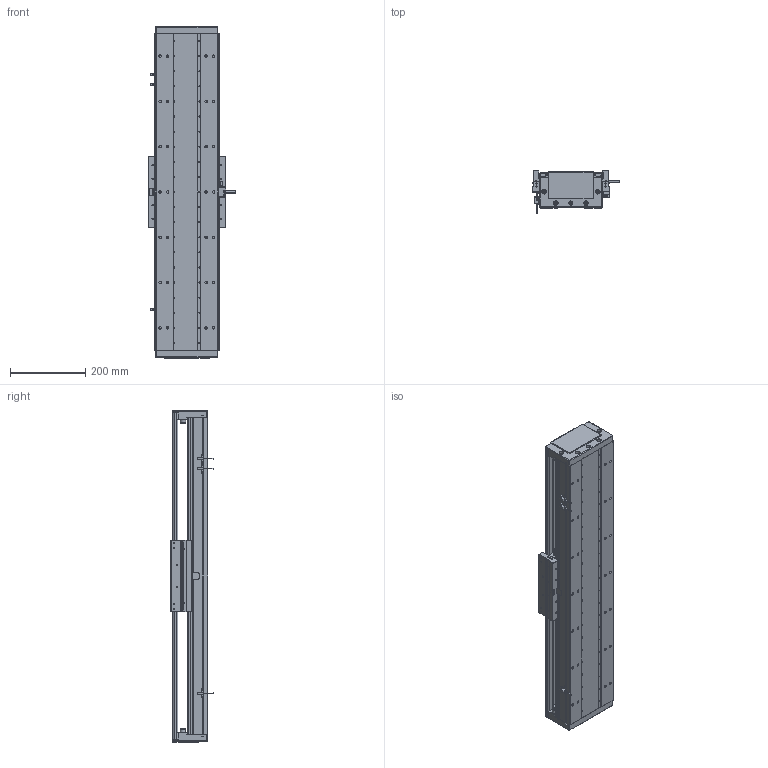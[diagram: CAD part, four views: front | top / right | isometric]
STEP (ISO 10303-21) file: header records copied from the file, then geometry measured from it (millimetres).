
FILE_DESCRIPTION (( 'STEP AP203' ), '1' );
FILE_NAME ('DA-C165-C2-T600-C010-0.2 直线电机.STEP', '2023-05-11T07:30:59', ( '微软用户' ), ( '微软中国' ), 'SwSTEP 2.0', 'SolidWorks 2019', '' );
FILE_SCHEMA (( 'CONFIG_CONTROL_DESIGN' ));
Length unit declared in the file: millimetre
Products named in the file (15): 葩璃 DA95-GT-T-00^IU-CU165-L 菁釱絳寢_T; 复件 DA95-HXJ-00 缓冲橡胶^DA-C165-C2-T-C010-0.2-N 直线电机; 复件 DA165-GYP-00 光电感应片^DA-C165-C2-T-C010-0.2-N 直线电机; DA-C165-C2-T600-C010-0.2 眻盄萇儂; 复件 CKM02-W075-C1C2-TP-3.0 一体电机-C2^DA-C165-C2-T-C010-0.2-N 直线电机; 葩璃 PM-T45^DA-C165-C2-T-C010-0.2-N 眻盄萇儂; 复件 DMA-010-0.2 读数头^DA-C165-C2-T-C010-0.2-N 直线电机; IU-CU165-L 菁釱絳寢; 珨极趙賑雄怢啣wf-C2; 复件 DA165-T-002-00 盖板^DA-C165-C2-T-C010-0.2-N 直线电机_0840-002-00; 葩璃 CKM01-W075-TRL^DA-C165-C2-T-C010-0.2-N 眻盄萇儂; 复件 六角薄螺母 M3^DA-C165-C2-T-C010-0.2-N 直线电机_GB_FASTENER_NUT_STNAB M3-C; IU-CU165-L-00 菁釱_L840; 复件 DA165-DG-H-N-00 端盖^DA-C165-C2-T-C010-0.2-N 直线电机; 复件 XD-U-02L 磁栅尺^DA-C165-C2-T-C010-0.2-N 直线电机_T
Assembly tree (28 placements, depth 3):
  DA-C165-C2-T600-C010-0.2 眻盄萇儂
    IU-CU165-L 菁釱絳寢
      IU-CU165-L-00 菁釱_L840
      葩璃 DA95-GT-T-00^IU-CU165-L 菁釱絳寢_T  x4
    复件 DA165-DG-H-N-00 端盖^DA-C165-C2-T-C010-0.2-N 直线电机  x2
    复件 DA95-HXJ-00 缓冲橡胶^DA-C165-C2-T-C010-0.2-N 直线电机  x4
    复件 DA165-T-002-00 盖板^DA-C165-C2-T-C010-0.2-N 直线电机_0840-002-00
    复件 XD-U-02L 磁栅尺^DA-C165-C2-T-C010-0.2-N 直线电机_T
    葩璃 PM-T45^DA-C165-C2-T-C010-0.2-N 眻盄萇儂  x3
    葩璃 CKM01-W075-TRL^DA-C165-C2-T-C010-0.2-N 眻盄萇儂
    复件 DA165-GYP-00 光电感应片^DA-C165-C2-T-C010-0.2-N 直线电机
    复件 DMA-010-0.2 读数头^DA-C165-C2-T-C010-0.2-N 直线电机
    复件 CKM02-W075-C1C2-TP-3.0 一体电机-C2^DA-C165-C2-T-C010-0.2-N 直线电机
    复件 六角薄螺母 M3^DA-C165-C2-T-C010-0.2-N 直线电机_GB_FASTENER_NUT_STNAB M3-C  x6
    珨极趙賑雄怢啣wf-C2
Bounding box: 233 x 111.45 x 880 mm (x, y, z)
Volume: 6794560.8 mm3; surface area: 1816986.2 mm2
Topology: 66 solids, 66 shells, 2980 faces, 8062 edges, 5043 vertices
Faces by surface type: cylinder 1463, plane 1053, cone 406, torus 54, sphere 4
Entity records: 87597 total; most frequent: CARTESIAN_POINT 19688, DIRECTION 14064, ORIENTED_EDGE 13598, EDGE_CURVE 6799, AXIS2_PLACEMENT_3D 5267, VERTEX_POINT 4379, LINE 3530, VECTOR 3530
